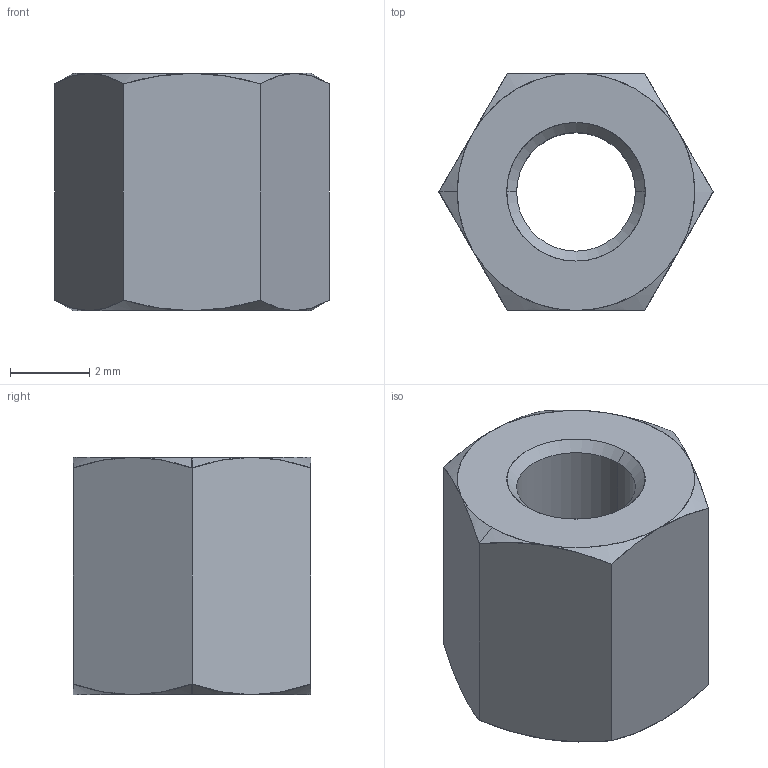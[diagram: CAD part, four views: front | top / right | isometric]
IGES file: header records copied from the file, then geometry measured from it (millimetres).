
Start section: SolidWorks IGES file using analytic representation for surfaces
Global section: file name: C:\Users\ianosborn\Desktop\N0503.NP_v2\N0503.NP_v2_20250227_IGES\N0503.030-006-NP.igs; native system: SolidWorks 2019; preprocessor: SolidWorks 2019; author: IanOsborn; date: 250227.144042; units: millimetre
Bounding box: 6.93 x 6 x 6 mm (x, y, z)
Surface area: 224 mm2 (no closed solid volume)
Topology: 0 solids, 0 shells, 28 faces, 286 edges, 286 vertices
Faces by surface type: revolution 20, bspline 8
